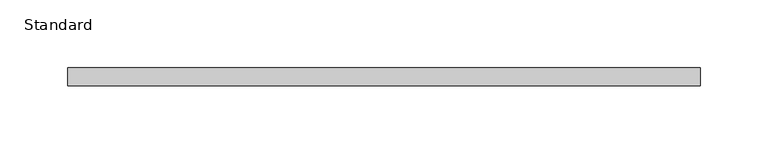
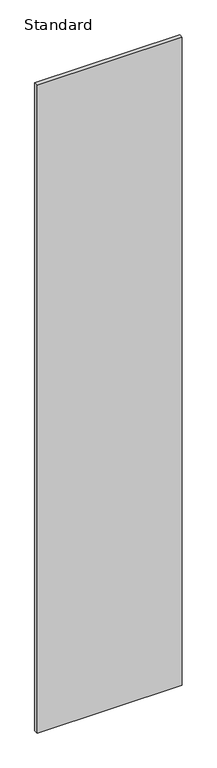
"""IFC4 building model written with IfcOpenShell, lengths in millimetres: furniture geometry, X_Partition-Compact Laminate-Duracube-Rectangular : Standard."""

from ifc_helpers import new_model, si_unit, frame, origin, place, context, project, spatial, polyline, outline, extrude, source, transform, mapped, element, save


def standard_d8ce52b2(model_context):
    return source(origin(), model_context, "Body", "SweptSolid", [
        extrude(outline(polyline([(277.5336598, 0.0), (277.5336598, -13.0), (-188.1330069, -13.0), (-188.1330069, 0.0), (277.5336598, 0.0)])), frame((0.0, 0.0, 200.0), z_axis=(0.0, 0.0, 1.0), x_axis=(1.0, 0.0, 0.0)), (0.0, 0.0, 1.0), 2198.0),
    ])


if __name__ == "__main__":
    model = new_model("IFC4")
    model_context = context("Model", 3, world=origin())
    ifc_project = project(units=[si_unit("LENGTHUNIT", "METRE", prefix="MILLI")], contexts=[model_context])
    site = spatial("IfcSite", under=ifc_project)
    building = spatial("IfcBuilding", under=site)
    placement = place(None, origin())
    standard_shape = standard_d8ce52b2(model_context)
    element("IfcFurniture", 1, ObjectType="X_Partition-Compact Laminate-Duracube-Rectangular : Standard", at=placement, inside=building, context=model_context, shape_type="MappedRepresentation", body=[
        mapped(standard_shape, transform((0.0, 0.0, 0.0), x_axis=(1.0, 0.0, 0.0), y_axis=(0.0, 1.0, 0.0), z_axis=(0.0, 0.0, 1.0))),
    ])
    save(model, "model.ifc")
